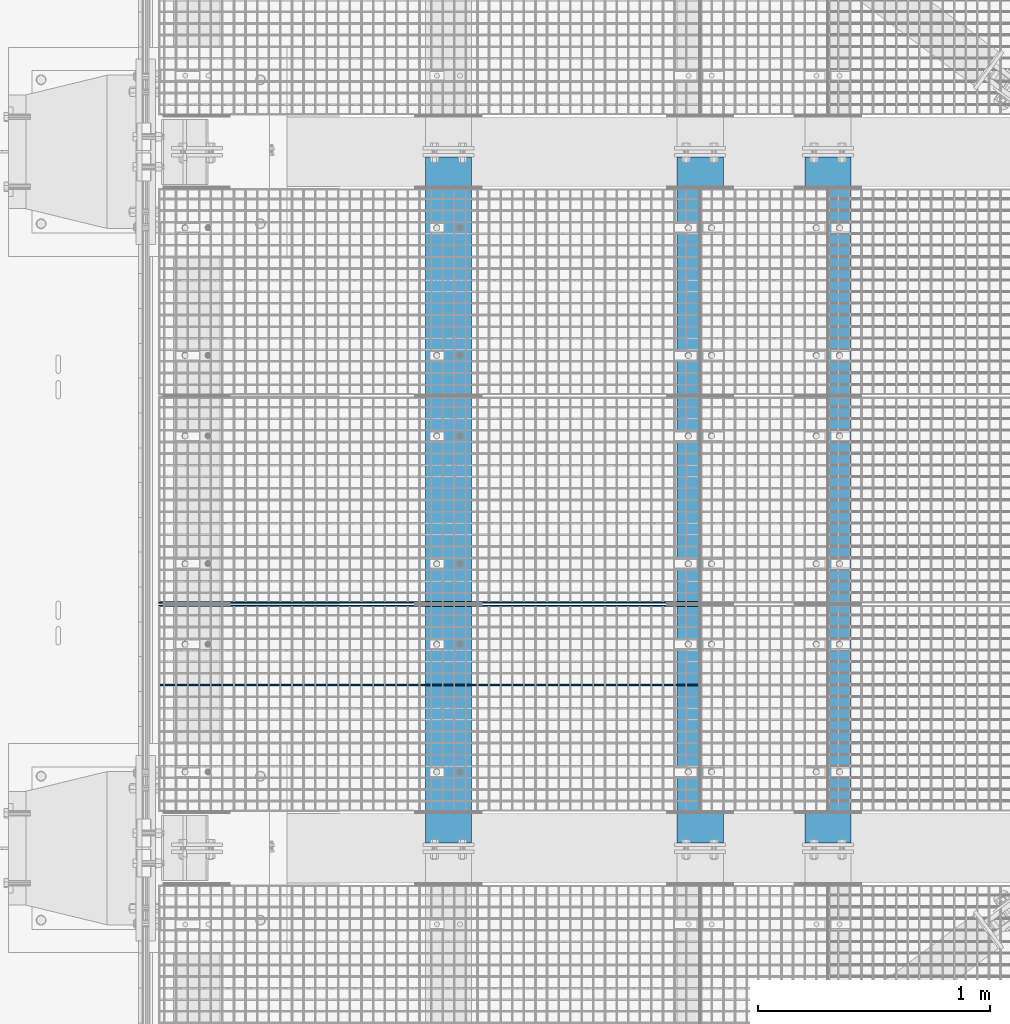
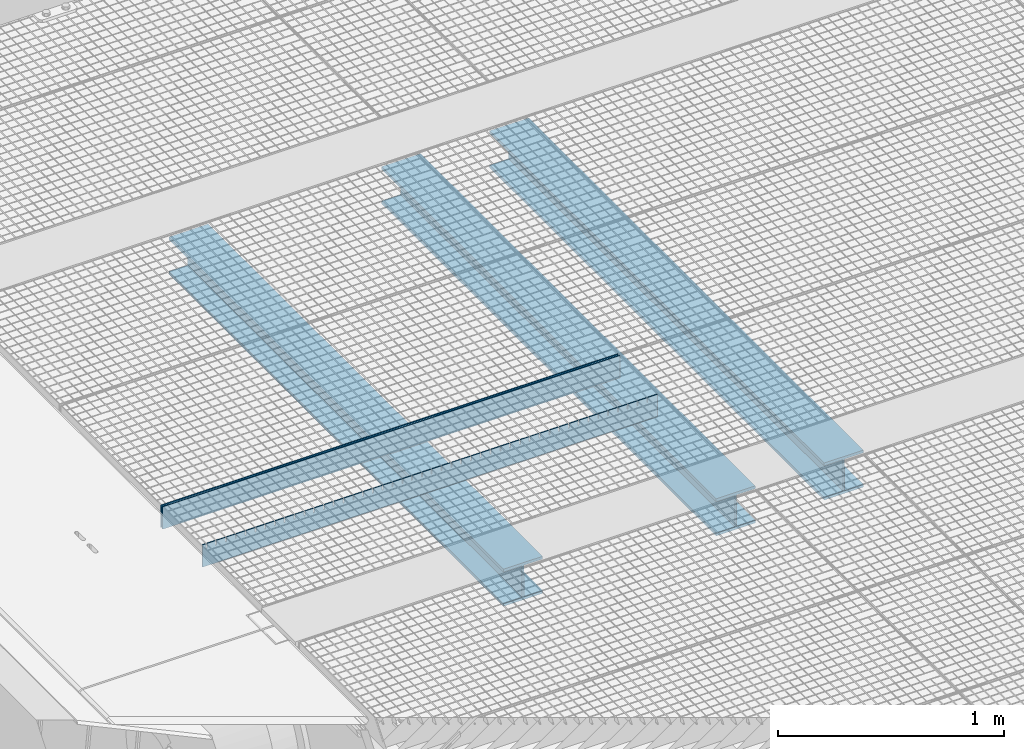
# One storey, part 288 of 1530: 6 beams.
"""IFC2X3 building model written with IfcOpenShell, lengths in millimetres."""

import ifcopenshell
import ifcopenshell.guid

model = None  # the IFC model being written
_history = None  # IfcOwnerHistory: only IFC2X3 demands one
_inside = {}  # id of a spatial element -> (the spatial element, [elements in it])
_under = {}  # id of a project, library or spatial element -> (it, [spatial elements below it])
_declared = {}  # id of a project -> (the project, [libraries it declares])
_typed = {}  # id of a type object -> (the type object, [elements of that type])
_made_of = {}  # id of a material, layer set ... -> (it, [elements and type objects made of it])


def new_model(schema):
    """Start an empty IFC model of exactly this schema.

    Asked for "IFC4X3", IfcOpenShell would pick the latest addendum, in which some entities
    have other attributes; the version numbers below select the first issue.
    IFC2X3 requires an IfcOwnerHistory on every rooted entity: one is made here for all.
    """
    global model, _history
    if schema == "IFC4X3":
        model = ifcopenshell.file(schema_version=(4, 3, 0, 0))
    else:
        model = ifcopenshell.file(schema=schema)
    _inside.clear()
    _under.clear()
    _declared.clear()
    _typed.clear()
    _made_of.clear()
    _history = None
    if model.schema == "IFC2X3":
        org = make("IfcOrganization", Name="unknown")
        user = make(
            "IfcPersonAndOrganization",
            ThePerson=make("IfcPerson", FamilyName="unknown"),
            TheOrganization=org,
        )
        app = make(
            "IfcApplication",
            ApplicationDeveloper=org,
            Version="unknown",
            ApplicationFullName="unknown",
            ApplicationIdentifier="unknown",
        )
        _history = make(
            "IfcOwnerHistory",
            OwningUser=user,
            OwningApplication=app,
            ChangeAction="ADDED",
            CreationDate=0,
        )
    return model


def make(cls, **values):
    """One entity of the class cls with the attributes given. An attribute that is None is left unset."""
    return model.create_entity(
        cls, **{name: value for name, value in values.items() if value is not None}
    )


def rooted(cls, **values):
    """An entity with a GlobalId (a new one), such as an element, a storey or a relation."""
    return make(cls, GlobalId=ifcopenshell.guid.new(), OwnerHistory=_history, **values)


def si_unit(unit_type, name, prefix=None):
    """IfcSIUnit, for example si_unit("LENGTHUNIT", "METRE", prefix="MILLI")."""
    return make("IfcSIUnit", UnitType=unit_type, Prefix=prefix, Name=name)


def assignment(units):
    """IfcUnitAssignment: the units of a project."""
    return None if units is None else make("IfcUnitAssignment", Units=units)


def point(xyz):
    """IfcCartesianPoint."""
    return None if xyz is None else make("IfcCartesianPoint", Coordinates=xyz)


def direction(xyz):
    """IfcDirection."""
    return None if xyz is None else make("IfcDirection", DirectionRatios=xyz)


def frame(location, z_axis=None, x_axis=None):
    """IfcAxis2Placement3D, a coordinate frame: its origin and axes. An axis left out is left unset."""
    return make(
        "IfcAxis2Placement3D",
        Location=point(location),
        Axis=direction(z_axis),
        RefDirection=direction(x_axis),
    )


def origin_with_axes():
    """The frame at (0, 0, 0) with the z axis (0, 0, 1) and the x axis (1, 0, 0) written out."""
    return frame((0.0, 0.0, 0.0), z_axis=(0.0, 0.0, 1.0), x_axis=(1.0, 0.0, 0.0))


def place(relative_to, where):
    """IfcLocalPlacement: puts the frame where relative to a parent placement (None: the world)."""
    return make(
        "IfcLocalPlacement", PlacementRelTo=relative_to, RelativePlacement=where
    )


def context(
    kind, dimensions, precision=None, world=None, true_north=None, identifier=None
):
    """IfcGeometricRepresentationContext, for example the 3D "Model" context."""
    return make(
        "IfcGeometricRepresentationContext",
        ContextIdentifier=identifier,
        ContextType=kind,
        CoordinateSpaceDimension=dimensions,
        Precision=precision,
        WorldCoordinateSystem=world,
        TrueNorth=true_north,
    )


def subcontext(parent, identifier, kind, view, scale=None):
    """IfcGeometricRepresentationSubContext, for example "Body" below "Model"."""
    return make(
        "IfcGeometricRepresentationSubContext",
        ContextIdentifier=identifier,
        ContextType=kind,
        ParentContext=parent,
        TargetScale=scale,
        TargetView=view,
    )


def project(units=None, contexts=None):
    """IfcProject with its units and contexts."""
    return rooted(
        "IfcProject",
        Name="project",
        RepresentationContexts=contexts,
        UnitsInContext=assignment(units),
    )


def spatial(cls, under=None, at=None, **own):
    """A site, building, storey or space (cls), placed at a placement, below another one or the project."""
    s = rooted(cls, ObjectPlacement=at, **own)
    if under is not None:
        _under.setdefault(under.id(), (under, []))[1].append(s)
    return s


def faces_of(points, faces, orient=None, outer=None):
    """IfcFace entities. A face is a list of loops; a loop is a list of indices into points, from 0.

    orient and outer hold one flag for each loop. By default every Orientation is true, the
    first loop of a face is its IfcFaceOuterBound and the others are IfcFaceBound.
    """
    made = []
    for i, loops in enumerate(faces):
        bounds = []
        for j, loop in enumerate(loops):
            is_outer = j == 0 if outer is None else outer[i][j]
            bounds.append(
                make(
                    "IfcFaceOuterBound" if is_outer else "IfcFaceBound",
                    Bound=make("IfcPolyLoop", Polygon=[points[k] for k in loop]),
                    Orientation=True if orient is None else orient[i][j],
                )
            )
        made.append(make("IfcFace", Bounds=bounds))
    return made


def faceted_brep(points, faces, orient=None, outer=None, voids=None):
    """IfcFacetedBrep: a solid bounded by flat faces; with voids (closed shells), ...WithVoids."""
    shared = [point(p) for p in points]
    hull = make("IfcClosedShell", CfsFaces=faces_of(shared, faces, orient, outer))
    if voids is None:
        return make("IfcFacetedBrep", Outer=hull)
    return make(
        "IfcFacetedBrepWithVoids",
        Outer=hull,
        Voids=[
            make(cls, CfsFaces=faces_of(shared, fs, o, b)) for cls, fs, o, b in voids
        ],
    )


def shape(context_of_items, identifier, shape_type, items):
    """IfcShapeRepresentation: the items that make up one representation, for example the "Body"."""
    return make(
        "IfcShapeRepresentation",
        ContextOfItems=context_of_items,
        RepresentationIdentifier=identifier,
        RepresentationType=shape_type,
        Items=items,
    )


def material(Name=None, Category=None):
    """IfcMaterial."""
    return make("IfcMaterial", Name=Name, Category=Category)


def made_of(thing, what):
    """Note that an element or type object is made of a material, layer set ...; save() writes the relation."""
    if what is not None:
        _made_of.setdefault(what.id(), (what, []))[1].append(thing)
    return thing


def type_object(cls, material=None, **own):
    """A type object (cls), such as IfcWallType, which elements share."""
    return made_of(rooted(cls, **own), material)


def element(
    cls,
    number,
    at=None,
    inside=None,
    cuts=None,
    type_object=None,
    material=None,
    context=None,
    identifier="Body",
    shape_type=None,
    held_by="IfcProductDefinitionShape",
    body=None,
    shapes=None,
    **own,
):
    """One element of the class cls, such as IfcWall. Its Tag is "e" and its number.

    at: its placement. inside: the storey or other place that contains it. cuts: it is an
    opening in that element (IfcRelVoidsElement). A single representation is given by context,
    identifier, shape_type and body (its items); several are given by shapes. held_by: the class
    of the entity that holds the representations. save() writes the other relations.
    """
    e = rooted(cls, Tag="e%d" % number, ObjectPlacement=at, **own)
    if body is not None:
        shapes = [shape(context, identifier, shape_type, body)]
    if shapes is not None:
        e.Representation = make(held_by, Representations=shapes)
    if inside is not None:
        _inside.setdefault(inside.id(), (inside, []))[1].append(e)
    if cuts is not None:
        rooted(
            "IfcRelVoidsElement", RelatingBuildingElement=cuts, RelatedOpeningElement=e
        )
    if type_object is not None:
        _typed.setdefault(type_object.id(), (type_object, []))[1].append(e)
    return made_of(e, material)


def aggregate(whole, parts):
    """IfcRelAggregates: a whole, such as a stair, and the parts it consists of."""
    return rooted("IfcRelAggregates", RelatingObject=whole, RelatedObjects=parts)


def save(model, path):
    """Write the relations noted so far, then the file.

    IfcRelAggregates (storeys below a building ...), IfcRelContainedInSpatialStructure (elements
    in a storey), IfcRelDefinesByType, IfcRelAssociatesMaterial and IfcRelDeclares: one each for
    every whole, place, type object, material and project.
    """
    for whole, parts in _under.values():
        aggregate(whole, parts)
    for where, things in _inside.values():
        rooted(
            "IfcRelContainedInSpatialStructure",
            RelatedElements=things,
            RelatingStructure=where,
        )
    for kind, things in _typed.values():
        rooted("IfcRelDefinesByType", RelatedObjects=things, RelatingType=kind)
    for what, things in _made_of.values():
        rooted("IfcRelAssociatesMaterial", RelatedObjects=things, RelatingMaterial=what)
    for by, libraries in _declared.values():
        rooted("IfcRelDeclares", RelatingContext=by, RelatedDefinitions=libraries)
    model.write(path)


model = new_model("IFC2X3")

# Units and contexts
model_context = context("Model", 3, precision=1e-05, world=origin_with_axes())
body_context = subcontext(model_context, "Body", "Model", "MODEL_VIEW")
ifc_project = project(units=[si_unit("LENGTHUNIT", "METRE", prefix="MILLI"), si_unit("AREAUNIT", "SQUARE_METRE"), si_unit("VOLUMEUNIT", "CUBIC_METRE"), si_unit("MASSUNIT", "GRAM", prefix="KILO"), si_unit("TIMEUNIT", "SECOND"), si_unit("PLANEANGLEUNIT", "RADIAN"), si_unit("SOLIDANGLEUNIT", "STERADIAN"), si_unit("THERMODYNAMICTEMPERATUREUNIT", "DEGREE_CELSIUS"), si_unit("LUMINOUSINTENSITYUNIT", "LUMEN")], contexts=[model_context])

# Site, building, storey
site_placement = place(None, origin_with_axes())
site = spatial("IfcSite", under=ifc_project, at=site_placement, Name="Brattvåg", CompositionType="ELEMENT")
building_placement = place(site_placement, origin_with_axes())
building = spatial("IfcBuilding", under=site, at=building_placement, Name="Undefined", CompositionType="ELEMENT")
storey_placement = place(building_placement, origin_with_axes())
storey = spatial("IfcBuildingStorey", under=building, at=storey_placement, Name="Undefined", CompositionType="ELEMENT", Elevation=0.0)

# Beams
ifc_material_1 = material(Name="STEEL/S355J2")
beam_type_1 = type_object("IfcBeamType", Name="120*5", PredefinedType="NOTDEFINED")
beam_placement = place(storey_placement, frame((2347.01317977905, 3702.99487304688, -59.9998626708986), z_axis=(0.0, 0.0, 1.0), x_axis=(-1.0, 1.99999855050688e-09, 0.0)))
element("IfcBeam", 1, at=beam_placement, inside=storey, type_object=beam_type_1, material=ifc_material_1, Name="GRATING", context=body_context, shape_type="Brep", body=[
    faceted_brep([(99.4490367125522, -2.50000000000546, 60.0000722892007), (99.4490367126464, -2.50000000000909, 35.0001373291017), (99.4490367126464, 2.50022888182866, 35.0001373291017), (99.4490367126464, 2.5, 60.0), (104.449036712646, -2.50000000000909, 35.0001373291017), (104.449036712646, 2.50022888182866, 35.0001373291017), (104.449036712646, -2.50000000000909, 60.0001373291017), (104.449036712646, 2.5, 60.0), (54.5084370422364, -2.50000000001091, 60.0001373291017), (54.5084370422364, 2.5, 60.0), (54.5084370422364, 2.49999999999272, 35.0001373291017), (54.5084370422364, -2.50000000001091, 35.0001373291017), (49.5084370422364, 2.49999999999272, 35.0001373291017), (49.5084370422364, -2.50000000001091, 35.0001373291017), (49.5084370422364, -2.5, 60.0), (49.5084370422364, 2.5, 60.0), (0.0, 2.5, 60.0), (0.0, -2.5, 60.0), (0.0, -2.5, -60.0), (0.0, 2.5, -60.0), (2319.99865722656, 2.5, -60.0), (2319.99865722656, -2.5, -60.0), (2319.99865722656, -2.5, 60.0), (2319.99865722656, 2.5, 60.0), (2302.24871932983, 2.5, 60.0), (2302.24871932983, -2.50000000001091, 60.0001373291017), (2302.24871932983, 2.49999999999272, 35.0001373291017), (2302.24871932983, -2.50000000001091, 35.0001373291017), (2297.24871932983, 2.49999999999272, 35.0001373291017), (2297.24871932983, -2.50000000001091, 35.0001373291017), (2297.24871932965, -2.50000000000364, 60.0000461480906), (2297.24871932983, 2.5, 60.0), (2252.29859649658, 2.5, 60.0), (2252.29859649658, -2.50000000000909, 60.0001373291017), (2252.29859649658, 2.50022888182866, 35.0001373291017), (2252.29859649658, -2.50000000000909, 35.0001373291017), (2247.29859649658, 2.50022888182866, 35.0001373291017), (2247.29859649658, -2.50000000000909, 35.0001373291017), (2247.29859649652, -2.50000000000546, 60.0000848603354), (2247.29859649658, 2.5, 60.0), (2202.34847366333, 2.5, 60.0), (2202.34847366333, -2.50000000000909, 60.0001373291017), (2202.34847366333, 2.50022888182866, 35.0001373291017), (2202.34847366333, -2.50000000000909, 35.0001373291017), (2197.34847366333, 2.50022888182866, 35.0001373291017), (2197.34847366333, -2.50000000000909, 35.0001373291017), (2197.34847366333, -2.5, 60.0), (2197.34847366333, 2.5, 60.0), (2152.39882766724, 2.5, 60.0), (2152.39882766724, -2.50000000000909, 60.0001373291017), (2152.39882766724, 2.50022888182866, 35.0001373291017), (2152.39882766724, -2.50000000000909, 35.0001373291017), (2147.39882766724, 2.50022888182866, 35.0001373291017), (2147.39882766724, -2.50000000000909, 35.0001373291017), (2147.39882766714, -2.50000000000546, 60.0000722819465), (2147.39882766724, 2.5, 60.0), (2102.44870483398, 2.5, 60.0), (2102.44870483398, -2.50000000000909, 60.0001373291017), (2102.44870483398, 2.50022888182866, 35.0001373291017), (2102.44870483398, -2.50000000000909, 35.0001373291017), (2097.44870483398, 2.50022888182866, 35.0001373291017), (2097.44870483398, -2.50000000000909, 35.0001373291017), (2097.44870483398, -2.5, 60.0), (2097.44870483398, 2.5, 60.0), (2052.49858200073, 2.5, 60.0), (2052.49858200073, -2.50000000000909, 60.0001373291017), (2052.49858200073, 2.50022888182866, 35.0001373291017), (2052.49858200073, -2.50000000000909, 35.0001373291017), (2047.49858200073, 2.50022888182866, 35.0001373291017), (2047.49858200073, -2.50000000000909, 35.0001373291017), (2047.49858200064, -2.50000000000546, 60.0000722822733), (2047.49858200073, 2.5, 60.0), (2002.54845916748, 2.5, 60.0), (2002.54845916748, -2.50000000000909, 60.0001373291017), (2002.54845916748, 2.50022888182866, 35.0001373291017), (2002.54845916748, -2.50000000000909, 35.0001373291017), (1997.54845916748, 2.50022888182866, 35.0001373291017), (1997.54845916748, -2.50000000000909, 35.0001373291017), (1997.54845916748, -2.5, 60.0), (1997.54845916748, 2.5, 60.0), (1952.59881317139, 2.5, 60.0), (1952.59881317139, -2.50000000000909, 60.0001373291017), (1952.59881317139, 2.50022888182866, 35.0001373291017), (1952.59881317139, -2.50000000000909, 35.0001373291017), (1947.59881317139, 2.50022888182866, 35.0001373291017), (1947.59881317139, -2.50000000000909, 35.0001373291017), (1947.59881317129, -2.50000000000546, 60.0000722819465), (1947.59881317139, 2.5, 60.0), (1902.64869033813, 2.5, 60.0), (1902.64869033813, -2.50000000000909, 60.0001373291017), (1902.64869033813, 2.50022888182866, 35.0001373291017), (1902.64869033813, -2.50000000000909, 35.0001373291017), (1897.64869033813, 2.50022888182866, 35.0001373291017), (1897.64869033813, -2.50000000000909, 35.0001373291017), (1897.64869033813, -2.5, 60.0), (1897.64869033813, 2.5, 60.0), (1852.69856750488, 2.5, 60.0), (1852.69856750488, -2.50000000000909, 60.0001373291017), (1852.69856750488, 2.50022888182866, 35.0001373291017), (1852.69856750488, -2.50000000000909, 35.0001373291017), (1847.69856750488, 2.50022888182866, 35.0001373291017), (1847.69856750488, -2.50000000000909, 35.0001373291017), (1847.69856750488, -2.5, 60.0), (1847.69856750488, 2.5, 60.0), (1802.74892150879, 2.5, 60.0), (1802.74892150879, -2.50000000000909, 60.0001373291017), (1802.74892150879, 2.50022888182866, 35.0001373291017), (1802.74892150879, -2.50000000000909, 35.0001373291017), (1797.74892150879, 2.50022888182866, 35.0001373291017), (1797.74892150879, -2.50000000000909, 35.0001373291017), (1797.74892150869, -2.50000000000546, 60.0000722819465), (1797.74892150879, 2.5, 60.0), (1752.79879867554, 2.5, 60.0), (1752.79879867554, -2.50000000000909, 60.0001373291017), (1752.79879867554, 2.50022888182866, 35.0001373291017), (1752.79879867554, -2.50000000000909, 35.0001373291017), (1747.79879867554, 2.50022888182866, 35.0001373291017), (1747.79879867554, -2.50000000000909, 35.0001373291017), (1747.79879867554, -2.5, 60.0), (1747.79879867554, 2.5, 60.0), (1702.84867584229, 2.5, 60.0), (1702.84867584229, -2.50000000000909, 60.0001373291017), (1702.84867584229, 2.50022888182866, 35.0001373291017), (1702.84867584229, -2.50000000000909, 35.0001373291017), (1697.84867584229, 2.50022888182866, 35.0001373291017), (1697.84867584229, -2.50000000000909, 35.0001373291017), (1697.84867584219, -2.50000000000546, 60.0000722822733), (1697.84867584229, 2.5, 60.0), (1652.89855300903, 2.5, 60.0), (1652.89855300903, -2.50000000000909, 60.0001373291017), (1652.89855300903, 2.50022888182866, 35.0001373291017), (1652.89855300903, -2.50000000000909, 35.0001373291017), (1647.89855300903, 2.50022888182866, 35.0001373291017), (1647.89855300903, -2.50000000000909, 35.0001373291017), (1647.89855300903, -2.5, 60.0), (1647.89855300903, 2.5, 60.0), (1602.94890701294, 2.5, 60.0), (1602.94890701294, -2.50000000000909, 60.0001373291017), (1602.94890701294, 2.50022888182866, 35.0001373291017), (1602.94890701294, -2.50000000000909, 35.0001373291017), (1597.94890701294, 2.50022888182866, 35.0001373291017), (1597.94890701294, -2.50000000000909, 35.0001373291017), (1597.94890701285, -2.50000000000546, 60.0000722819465), (1597.94890701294, 2.5, 60.0), (1552.99878417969, 2.5, 60.0), (1552.99878417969, -2.50000000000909, 60.0001373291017), (1552.99878417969, 2.50022888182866, 35.0001373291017), (1552.99878417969, -2.50000000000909, 35.0001373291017), (1547.99878417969, 2.50022888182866, 35.0001373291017), (1547.99878417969, -2.50000000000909, 35.0001373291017), (1547.99878417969, -2.5, 60.0), (1547.99878417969, 2.5, 60.0), (1503.04866134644, 2.5, 60.0), (1503.04866134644, -2.50000000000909, 60.0001373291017), (1503.04866134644, 2.50022888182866, 35.0001373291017), (1503.04866134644, -2.50000000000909, 35.0001373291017), (1498.04866134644, 2.50022888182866, 35.0001373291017), (1498.04866134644, -2.50000000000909, 35.0001373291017), (1498.04866134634, -2.50000000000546, 60.0000722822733), (1498.04866134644, 2.5, 60.0), (1453.09853851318, 2.5, 60.0), (1453.09853851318, -2.50000000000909, 60.0001373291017), (1453.09853851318, 2.50022888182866, 35.0001373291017), (1453.09853851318, -2.50000000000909, 35.0001373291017), (1448.09853851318, 2.50022888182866, 35.0001373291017), (1448.09853851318, -2.50000000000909, 35.0001373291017), (1448.09853851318, -2.5, 60.0), (1448.09853851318, 2.5, 60.0), (1403.14889251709, 2.5, 60.0), (1403.14889251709, -2.50000000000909, 60.0001373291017), (1403.14889251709, 2.50022888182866, 35.0001373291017), (1403.14889251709, -2.50000000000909, 35.0001373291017), (1398.14889251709, 2.50022888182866, 35.0001373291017), (1398.14889251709, -2.50000000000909, 35.0001373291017), (1398.148892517, -2.50000000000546, 60.0000722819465), (1398.14889251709, 2.5, 60.0), (1353.19876968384, 2.5, 60.0), (1353.19876968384, -2.50000000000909, 60.0001373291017), (1353.19876968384, 2.50022888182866, 35.0001373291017), (1353.19876968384, -2.50000000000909, 35.0001373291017), (1348.19876968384, 2.50022888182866, 35.0001373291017), (1348.19876968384, -2.50000000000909, 35.0001373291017), (1348.19876968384, -2.5, 60.0), (1348.19876968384, 2.5, 60.0), (1303.24864685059, 2.5, 60.0), (1303.24864685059, -2.50000000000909, 60.0001373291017), (1303.24864685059, 2.50022888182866, 35.0001373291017), (1303.24864685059, -2.50000000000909, 35.0001373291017), (1298.24864685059, 2.50022888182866, 35.0001373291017), (1298.24864685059, -2.50000000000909, 35.0001373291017), (1298.24864685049, -2.50000000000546, 60.0000722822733), (1298.24864685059, 2.5, 60.0), (1253.29852401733, 2.5, 60.0), (1253.29852401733, -2.50000000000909, 60.0001373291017), (1253.29852401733, 2.50022888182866, 35.0001373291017), (1253.29852401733, -2.50000000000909, 35.0001373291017), (1248.29852401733, 2.50022888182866, 35.0001373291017), (1248.29852401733, -2.50000000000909, 35.0001373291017), (1248.29852401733, -2.5, 60.0), (1248.29852401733, 2.5, 60.0), (1203.34887802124, 2.5, 60.0), (1203.34887802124, -2.50000000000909, 60.0001373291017), (1203.34887802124, 2.50022888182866, 35.0001373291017), (1203.34887802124, -2.50000000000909, 35.0001373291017), (1198.34887802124, 2.50022888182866, 35.0001373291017), (1198.34887802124, -2.50000000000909, 35.0001373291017), (1198.34887802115, -2.50000000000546, 60.0000722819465), (1198.34887802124, 2.5, 60.0), (1153.39875518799, 2.5, 60.0), (1153.39875518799, -2.50000000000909, 60.0001373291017), (1153.39875518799, 2.50022888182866, 35.0001373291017), (1153.39875518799, -2.50000000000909, 35.0001373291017), (1148.39875518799, 2.50022888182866, 35.0001373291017), (1148.39875518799, -2.50000000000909, 35.0001373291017), (1148.39875518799, -2.5, 60.0), (1148.39875518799, 2.5, 60.0), (1103.44863235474, 2.5, 60.0), (1103.44863235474, -2.50000000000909, 60.0001373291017), (1103.44863235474, 2.50022888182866, 35.0001373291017), (1103.44863235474, -2.50000000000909, 35.0001373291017), (1098.44863235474, 2.50022888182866, 35.0001373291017), (1098.44863235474, -2.50000000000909, 35.0001373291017), (1098.44863235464, -2.50000000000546, 60.0000722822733), (1098.44863235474, 2.5, 60.0), (1053.49850952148, 2.5, 60.0), (1053.49850952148, -2.50000000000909, 60.0001373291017), (1053.49850952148, 2.50022888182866, 35.0001373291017), (1053.49850952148, -2.50000000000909, 35.0001373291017), (1048.49850952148, 2.50022888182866, 35.0001373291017), (1048.49850952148, -2.50000000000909, 35.0001373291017), (1048.49850952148, -2.5, 60.0), (1048.49850952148, 2.5, 60.0), (1003.54886352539, 2.5, 60.0), (1003.54886352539, -2.50000000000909, 60.0001373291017), (1003.54886352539, 2.50022888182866, 35.0001373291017), (1003.54886352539, -2.50000000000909, 35.0001373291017), (998.548863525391, 2.50022888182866, 35.0001373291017), (998.548863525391, -2.50000000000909, 35.0001373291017), (998.548863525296, -2.50000000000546, 60.0000722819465), (998.548863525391, 2.5, 60.0), (953.598740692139, 2.5, 60.0), (953.598740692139, -2.50000000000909, 60.0001373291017), (953.598740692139, 2.50022888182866, 35.0001373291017), (953.598740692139, -2.50000000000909, 35.0001373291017), (948.598740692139, 2.50022888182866, 35.0001373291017), (948.598740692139, -2.50000000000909, 35.0001373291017), (948.598740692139, -2.5, 60.0), (948.598740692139, 2.5, 60.0), (903.648617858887, 2.5, 60.0), (903.648617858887, -2.50000000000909, 60.0001373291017), (903.648617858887, 2.50022888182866, 35.0001373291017), (903.648617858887, -2.50000000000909, 35.0001373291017), (898.648617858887, 2.50022888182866, 35.0001373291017), (898.648617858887, -2.50000000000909, 35.0001373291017), (898.648617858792, -2.50000000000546, 60.0000722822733), (898.648617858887, 2.5, 60.0), (853.698495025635, 2.5, 60.0), (853.698495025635, -2.50000000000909, 60.0001373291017), (853.698495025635, 2.50022888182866, 35.0001373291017), (853.698495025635, -2.50000000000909, 35.0001373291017), (848.698495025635, 2.50022888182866, 35.0001373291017), (848.698495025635, -2.50000000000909, 35.0001373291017), (848.698495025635, -2.5, 60.0), (848.698495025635, 2.5, 60.0), (803.748849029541, 2.5, 60.0), (803.748849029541, -2.50000000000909, 60.0001373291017), (803.748849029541, 2.50022888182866, 35.0001373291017), (803.748849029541, -2.50000000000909, 35.0001373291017), (798.748849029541, 2.50022888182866, 35.0001373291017), (798.748849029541, -2.50000000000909, 35.0001373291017), (798.748849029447, -2.50000000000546, 60.0000722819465), (798.748849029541, 2.5, 60.0), (753.798726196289, 2.5, 60.0), (753.798726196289, -2.50000000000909, 60.0001373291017), (753.798726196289, 2.50022888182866, 35.0001373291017), (753.798726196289, -2.50000000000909, 35.0001373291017), (748.798726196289, 2.50022888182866, 35.0001373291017), (748.798726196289, -2.50000000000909, 35.0001373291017), (748.798726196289, -2.5, 60.0), (748.798726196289, 2.5, 60.0), (703.848603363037, 2.5, 60.0), (703.848603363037, -2.50000000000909, 60.0001373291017), (703.848603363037, 2.50022888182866, 35.0001373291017), (703.848603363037, -2.50000000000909, 35.0001373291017), (698.848603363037, 2.50022888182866, 35.0001373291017), (698.848603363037, -2.50000000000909, 35.0001373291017), (698.848603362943, -2.50000000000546, 60.0000722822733), (698.848603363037, 2.5, 60.0), (653.898480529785, 2.5, 60.0), (653.898480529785, -2.50000000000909, 60.0001373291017), (653.898480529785, 2.50022888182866, 35.0001373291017), (653.898480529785, -2.50000000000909, 35.0001373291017), (648.898480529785, 2.50022888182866, 35.0001373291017), (648.898480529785, -2.50000000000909, 35.0001373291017), (648.898480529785, -2.5, 60.0), (648.898480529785, 2.5, 60.0), (603.948834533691, 2.5, 60.0), (603.948834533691, -2.50000000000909, 60.0001373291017), (603.948834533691, 2.50022888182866, 35.0001373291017), (603.948834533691, -2.50000000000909, 35.0001373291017), (598.948834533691, 2.50022888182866, 35.0001373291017), (598.948834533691, -2.50000000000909, 35.0001373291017), (598.948834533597, -2.50000000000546, 60.0000722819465), (598.948834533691, 2.5, 60.0), (553.998711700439, 2.5, 60.0), (553.998711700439, -2.50000000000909, 60.0001373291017), (553.998711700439, 2.50022888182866, 35.0001373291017), (553.998711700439, -2.50000000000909, 35.0001373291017), (548.998711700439, 2.50022888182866, 35.0001373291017), (548.998711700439, -2.50000000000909, 35.0001373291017), (548.998711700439, -2.5, 60.0), (548.998711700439, 2.5, 60.0), (504.048588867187, 2.5, 60.0), (504.048588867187, -2.50000000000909, 60.0001373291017), (504.048588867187, 2.50022888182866, 35.0001373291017), (504.048588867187, -2.50000000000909, 35.0001373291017), (499.048588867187, 2.50022888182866, 35.0001373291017), (499.048588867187, -2.50000000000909, 35.0001373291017), (499.048588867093, -2.50000000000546, 60.0000722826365), (499.048588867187, 2.5, 60.0), (454.098942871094, 2.5, 60.0), (454.098942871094, -2.50000000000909, 60.0001373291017), (454.098942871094, 2.50022888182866, 35.0001373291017), (454.098942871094, -2.50000000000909, 35.0001373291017), (449.098942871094, 2.50022888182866, 35.0001373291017), (449.098942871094, -2.50000000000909, 35.0001373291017), (449.098942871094, -2.5, 60.0), (449.098942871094, 2.5, 60.0), (404.148820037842, 2.5, 60.0), (404.148820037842, -2.50000000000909, 60.0001373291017), (404.148820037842, 2.50022888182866, 35.0001373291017), (404.148820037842, -2.50000000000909, 35.0001373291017), (399.148820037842, 2.50022888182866, 35.0001373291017), (399.148820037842, -2.50000000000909, 35.0001373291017), (399.148820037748, -2.50000000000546, 60.0000722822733), (399.148820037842, 2.5, 60.0), (354.19869720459, 2.5, 60.0), (354.19869720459, -2.50000000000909, 60.0001373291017), (354.19869720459, 2.50022888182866, 35.0001373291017), (354.19869720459, -2.50000000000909, 35.0001373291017), (349.19869720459, 2.50022888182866, 35.0001373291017), (349.19869720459, -2.50000000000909, 35.0001373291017), (349.19869720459, -2.5, 60.0), (349.19869720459, 2.5, 60.0), (304.248574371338, 2.5, 60.0), (304.248574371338, -2.50000000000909, 60.0001373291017), (304.248574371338, 2.50022888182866, 35.0001373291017), (304.248574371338, -2.50000000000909, 35.0001373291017), (299.248574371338, 2.50022888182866, 35.0001373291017), (299.248574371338, -2.50000000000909, 35.0001373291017), (299.248574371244, -2.50000000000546, 60.0000722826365), (299.248574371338, 2.5, 60.0), (254.298928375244, 2.5, 60.0), (254.298928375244, -2.50000000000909, 60.0001373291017), (254.298928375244, 2.50022888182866, 35.0001373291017), (254.298928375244, -2.50000000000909, 35.0001373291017), (249.298928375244, 2.50022888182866, 35.0001373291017), (249.298928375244, -2.50000000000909, 35.0001373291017), (249.298928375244, -2.5, 60.0), (249.298928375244, 2.5, 60.0), (204.348328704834, 2.5, 60.0), (204.348328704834, -2.50000000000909, 60.0001373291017), (204.348328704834, 2.50022888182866, 35.0001373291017), (204.348328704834, -2.50000000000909, 35.0001373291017), (199.348328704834, 2.50022888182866, 35.0001373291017), (199.348328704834, -2.50000000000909, 35.0001373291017), (199.34832870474, -2.50000000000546, 60.0000722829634), (199.348328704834, 2.5, 60.0), (154.39868270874, 2.5, 60.0), (154.39868270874, -2.50000000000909, 60.0001373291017), (154.39868270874, 2.50022888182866, 35.0001373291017), (154.39868270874, -2.50000000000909, 35.0001373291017), (149.39868270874, 2.50022888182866, 35.0001373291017), (149.39868270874, -2.50000000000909, 35.0001373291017), (149.39868270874, -2.5, 60.0), (149.39868270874, 2.5, 60.0)], [[[0, 1, 2, 3]], [[4, 5, 2, 1]], [[6, 7, 5, 4]], [[8, 9, 10, 11]], [[11, 10, 12, 13]], [[14, 13, 12, 15]], [[16, 17, 14, 15]], [[18, 17, 16, 19]], [[18, 19, 20, 21]], [[22, 21, 20, 23]], [[22, 23, 24, 25]], [[25, 24, 26, 27]], [[27, 26, 28, 29]], [[30, 29, 28, 31]], [[32, 33, 30, 31]], [[33, 32, 34, 35]], [[35, 34, 36, 37]], [[38, 37, 36, 39]], [[40, 41, 38, 39]], [[41, 40, 42, 43]], [[43, 42, 44, 45]], [[46, 45, 44, 47]], [[46, 47, 48, 49]], [[49, 48, 50, 51]], [[51, 50, 52, 53]], [[54, 53, 52, 55]], [[56, 57, 54, 55]], [[57, 56, 58, 59]], [[59, 58, 60, 61]], [[62, 61, 60, 63]], [[62, 63, 64, 65]], [[65, 64, 66, 67]], [[67, 66, 68, 69]], [[70, 69, 68, 71]], [[72, 73, 70, 71]], [[73, 72, 74, 75]], [[75, 74, 76, 77]], [[78, 77, 76, 79]], [[78, 79, 80, 81]], [[81, 80, 82, 83]], [[83, 82, 84, 85]], [[86, 85, 84, 87]], [[88, 89, 86, 87]], [[89, 88, 90, 91]], [[91, 90, 92, 93]], [[94, 93, 92, 95]], [[94, 95, 96, 97]], [[97, 96, 98, 99]], [[99, 98, 100, 101]], [[102, 101, 100, 103]], [[102, 103, 104, 105]], [[105, 104, 106, 107]], [[107, 106, 108, 109]], [[110, 109, 108, 111]], [[112, 113, 110, 111]], [[113, 112, 114, 115]], [[115, 114, 116, 117]], [[118, 117, 116, 119]], [[118, 119, 120, 121]], [[121, 120, 122, 123]], [[123, 122, 124, 125]], [[126, 125, 124, 127]], [[128, 129, 126, 127]], [[129, 128, 130, 131]], [[131, 130, 132, 133]], [[134, 133, 132, 135]], [[134, 135, 136, 137]], [[137, 136, 138, 139]], [[139, 138, 140, 141]], [[142, 141, 140, 143]], [[144, 145, 142, 143]], [[145, 144, 146, 147]], [[147, 146, 148, 149]], [[150, 149, 148, 151]], [[150, 151, 152, 153]], [[153, 152, 154, 155]], [[155, 154, 156, 157]], [[158, 157, 156, 159]], [[160, 161, 158, 159]], [[161, 160, 162, 163]], [[163, 162, 164, 165]], [[166, 165, 164, 167]], [[166, 167, 168, 169]], [[169, 168, 170, 171]], [[171, 170, 172, 173]], [[174, 173, 172, 175]], [[176, 177, 174, 175]], [[177, 176, 178, 179]], [[179, 178, 180, 181]], [[182, 181, 180, 183]], [[182, 183, 184, 185]], [[185, 184, 186, 187]], [[187, 186, 188, 189]], [[190, 189, 188, 191]], [[192, 193, 190, 191]], [[193, 192, 194, 195]], [[195, 194, 196, 197]], [[198, 197, 196, 199]], [[198, 199, 200, 201]], [[201, 200, 202, 203]], [[203, 202, 204, 205]], [[206, 205, 204, 207]], [[208, 209, 206, 207]], [[209, 208, 210, 211]], [[211, 210, 212, 213]], [[214, 213, 212, 215]], [[214, 215, 216, 217]], [[217, 216, 218, 219]], [[219, 218, 220, 221]], [[222, 221, 220, 223]], [[224, 225, 222, 223]], [[225, 224, 226, 227]], [[227, 226, 228, 229]], [[230, 229, 228, 231]], [[230, 231, 232, 233]], [[233, 232, 234, 235]], [[235, 234, 236, 237]], [[238, 237, 236, 239]], [[240, 241, 238, 239]], [[241, 240, 242, 243]], [[243, 242, 244, 245]], [[246, 245, 244, 247]], [[246, 247, 248, 249]], [[249, 248, 250, 251]], [[251, 250, 252, 253]], [[254, 253, 252, 255]], [[256, 257, 254, 255]], [[257, 256, 258, 259]], [[259, 258, 260, 261]], [[262, 261, 260, 263]], [[262, 263, 264, 265]], [[265, 264, 266, 267]], [[267, 266, 268, 269]], [[270, 269, 268, 271]], [[272, 273, 270, 271]], [[273, 272, 274, 275]], [[275, 274, 276, 277]], [[278, 277, 276, 279]], [[278, 279, 280, 281]], [[281, 280, 282, 283]], [[283, 282, 284, 285]], [[286, 285, 284, 287]], [[288, 289, 286, 287]], [[289, 288, 290, 291]], [[291, 290, 292, 293]], [[294, 293, 292, 295]], [[294, 295, 296, 297]], [[297, 296, 298, 299]], [[299, 298, 300, 301]], [[302, 301, 300, 303]], [[304, 305, 302, 303]], [[305, 304, 306, 307]], [[307, 306, 308, 309]], [[310, 309, 308, 311]], [[310, 311, 312, 313]], [[313, 312, 314, 315]], [[315, 314, 316, 317]], [[318, 317, 316, 319]], [[320, 321, 318, 319]], [[321, 320, 322, 323]], [[323, 322, 324, 325]], [[326, 325, 324, 327]], [[326, 327, 328, 329]], [[329, 328, 330, 331]], [[331, 330, 332, 333]], [[334, 333, 332, 335]], [[336, 337, 334, 335]], [[337, 336, 338, 339]], [[339, 338, 340, 341]], [[342, 341, 340, 343]], [[342, 343, 344, 345]], [[345, 344, 346, 347]], [[347, 346, 348, 349]], [[350, 349, 348, 351]], [[352, 353, 350, 351]], [[353, 352, 354, 355]], [[355, 354, 356, 357]], [[358, 357, 356, 359]], [[358, 359, 360, 361]], [[361, 360, 362, 363]], [[363, 362, 364, 365]], [[366, 365, 364, 367]], [[368, 369, 366, 367]], [[369, 368, 370, 371]], [[371, 370, 372, 373]], [[374, 373, 372, 375]], [[1, 0, 8, 11, 13, 14, 17, 18, 21, 22, 25, 27, 29, 30, 33, 35, 37, 38, 41, 43, 45, 46, 49, 51, 53, 54, 57, 59, 61, 62, 65, 67, 69, 70, 73, 75, 77, 78, 81, 83, 85, 86, 89, 91, 93, 94, 97, 99, 101, 102, 105, 107, 109, 110, 113, 115, 117, 118, 121, 123, 125, 126, 129, 131, 133, 134, 137, 139, 141, 142, 145, 147, 149, 150, 153, 155, 157, 158, 161, 163, 165, 166, 169, 171, 173, 174, 177, 179, 181, 182, 185, 187, 189, 190, 193, 195, 197, 198, 201, 203, 205, 206, 209, 211, 213, 214, 217, 219, 221, 222, 225, 227, 229, 230, 233, 235, 237, 238, 241, 243, 245, 246, 249, 251, 253, 254, 257, 259, 261, 262, 265, 267, 269, 270, 273, 275, 277, 278, 281, 283, 285, 286, 289, 291, 293, 294, 297, 299, 301, 302, 305, 307, 309, 310, 313, 315, 317, 318, 321, 323, 325, 326, 329, 331, 333, 334, 337, 339, 341, 342, 345, 347, 349, 350, 353, 355, 357, 358, 361, 363, 365, 366, 369, 371, 373, 374, 6, 4]], [[9, 8, 0, 3]], [[375, 372, 370, 368, 367, 364, 362, 360, 359, 356, 354, 352, 351, 348, 346, 344, 343, 340, 338, 336, 335, 332, 330, 328, 327, 324, 322, 320, 319, 316, 314, 312, 311, 308, 306, 304, 303, 300, 298, 296, 295, 292, 290, 288, 287, 284, 282, 280, 279, 276, 274, 272, 271, 268, 266, 264, 263, 260, 258, 256, 255, 252, 250, 248, 247, 244, 242, 240, 239, 236, 234, 232, 231, 228, 226, 224, 223, 220, 218, 216, 215, 212, 210, 208, 207, 204, 202, 200, 199, 196, 194, 192, 191, 188, 186, 184, 183, 180, 178, 176, 175, 172, 170, 168, 167, 164, 162, 160, 159, 156, 154, 152, 151, 148, 146, 144, 143, 140, 138, 136, 135, 132, 130, 128, 127, 124, 122, 120, 119, 116, 114, 112, 111, 108, 106, 104, 103, 100, 98, 96, 95, 92, 90, 88, 87, 84, 82, 80, 79, 76, 74, 72, 71, 68, 66, 64, 63, 60, 58, 56, 55, 52, 50, 48, 47, 44, 42, 40, 39, 36, 34, 32, 31, 28, 26, 24, 23, 20, 19, 16, 15, 12, 10, 9, 3, 2, 5, 7]], [[374, 375, 7, 6]]]),
])
for number, where, z_axis, x_axis, name in (
    (2, (2352.00899291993, 4044.49917602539, -59.9998626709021), (0.0, 0.0, 1.0), (-1.0, 1.99999855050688e-09, 0.0), "GRATING"),
    (3, (22.010671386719, 4058.49868774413, -59.9998626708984), (0.0, 0.0, 1.0), (1.0, 0.0, 0.0), "GRATING"),
):
    element("IfcBeam", number, at=place(storey_placement, frame(where, z_axis=z_axis, x_axis=x_axis)), inside=storey, type_object=beam_type_1, material=ifc_material_1, Name=name, context=body_context, shape_type="Brep", body=[
        faceted_brep([(0.0, 2.5, -60.0), (0.0, 2.5, 60.0), (2329.99832153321, 2.5, 60.0), (2329.99832153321, 2.5, -60.0), (0.0, -2.5, 60.0), (2329.99832153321, -2.5, 60.0), (0.0, -2.5, -60.0), (2329.99832153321, -2.5, -60.0)], [[[0, 1, 2, 3]], [[1, 4, 5, 2]], [[4, 6, 7, 5]], [[6, 0, 3, 7]], [[5, 7, 3, 2]], [[6, 4, 1, 0]]]),
    ])
ifc_material_2 = material(Name="STEEL/S355J2+N")
beam_type_2 = type_object("IfcBeamType", Name="HEB200", PredefinedType="NOTDEFINED")
for number, where, z_axis, x_axis in (
    (4, (1271.00112915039, 3023.00155639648, -219.998931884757), (0.0, 0.0, 1.0), (0.0, 1.0, 0.0)),
    (5, (2355.00112915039, 3023.00155639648, -219.998931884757), (0.0, 0.0, 1.0), (0.0, 1.0, 0.0)),
    (6, (2906.00112915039, 3023.00155639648, -219.998931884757), (0.0, 0.0, 1.0), (0.0, 1.0, 0.0)),
):
    element("IfcBeam", number, at=place(storey_placement, frame(where, z_axis=z_axis, x_axis=x_axis)), inside=storey, type_object=beam_type_2, material=ifc_material_2, Name="STÅLBJELKE", context=body_context, shape_type="Brep", body=[
        faceted_brep([(0.0, 100.0, -100.0), (0.0, 100.0, -85.0), (2953.99993896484, 100.0, -85.0), (2953.99993896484, 100.0, -100.0), (0.0, 4.5, -85.0), (2953.99993896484, 4.5, -85.0), (0.0, 4.5, 85.0), (2953.99993896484, 4.5, 85.0), (0.0, 100.0, 85.0), (2953.99993896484, 100.0, 85.0), (0.0, 100.0, 100.0), (2953.99993896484, 100.0, 100.0), (0.0, -100.0, 100.0), (2953.99993896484, -100.0, 100.0), (0.0, -100.0, 85.0), (2953.99993896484, -100.0, 85.0), (0.0, -4.5, 85.0), (2953.99993896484, -4.5, 85.0), (0.0, -4.5, -85.0), (2953.99993896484, -4.5, -85.0), (0.0, -100.0, -85.0), (2953.99993896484, -100.0, -85.0), (0.0, -100.0, -100.0), (2953.99993896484, -100.0, -100.0)], [[[0, 1, 2, 3]], [[1, 4, 5, 2]], [[4, 6, 7, 5]], [[6, 8, 9, 7]], [[8, 10, 11, 9]], [[10, 12, 13, 11]], [[12, 14, 15, 13]], [[14, 16, 17, 15]], [[16, 18, 19, 17]], [[18, 20, 21, 19]], [[20, 22, 23, 21]], [[22, 0, 3, 23]], [[5, 7, 9, 11, 13, 15, 17, 19, 21, 23, 3, 2]], [[22, 20, 18, 16, 14, 12, 10, 8, 6, 4, 1, 0]]]),
    ])

save(model, "model.ifc")
